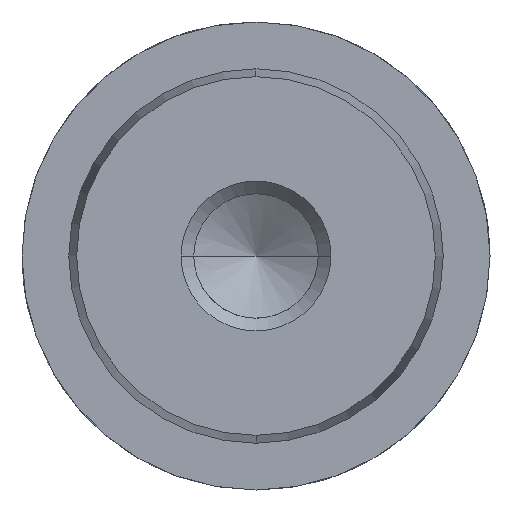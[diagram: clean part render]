
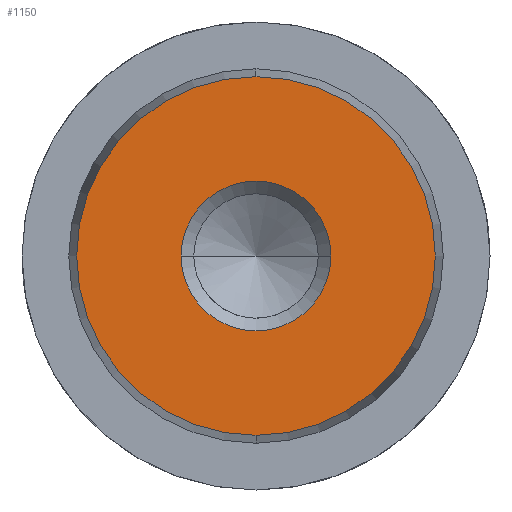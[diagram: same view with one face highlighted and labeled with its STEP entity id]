
A CAD part, left-side view. The second image highlights one B-rep face of the part: STEP entity #1150.
In plain terms, the highlighted planar face has unit normal (-1, 0, 0).
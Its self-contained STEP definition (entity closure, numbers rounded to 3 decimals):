
#1064=CARTESIAN_POINT('Vertex',(0.,0.,-9.578)) ;
#1067=CARTESIAN_POINT('Axis2P3D Location',(0.,0.,0.)) ;
#1071=CARTESIAN_POINT('Vertex',(0.,9.578,0.)) ;
#1074=CARTESIAN_POINT('Axis2P3D Location',(0.,0.,0.)) ;
#1078=CARTESIAN_POINT('Vertex',(0.,0.,9.578)) ;
#1100=CARTESIAN_POINT('Axis2P3D Location',(0.,0.,0.)) ;
#1104=CARTESIAN_POINT('Vertex',(0.,-9.578,0.)) ;
#1107=CARTESIAN_POINT('Axis2P3D Location',(0.,0.,0.)) ;
#1121=CARTESIAN_POINT('Axis2P3D Location',(0.,0.,0.)) ;
#1132=CARTESIAN_POINT('Axis2P3D Location',(0.,0.,0.)) ;
#1136=CARTESIAN_POINT('Vertex',(0.,4.,0.)) ;
#1138=CARTESIAN_POINT('Vertex',(0.,-4.,0.)) ;
#1141=CARTESIAN_POINT('Axis2P3D Location',(0.,0.,0.)) ;
#1068=DIRECTION('Axis2P3D Direction',(1.,0.,-0.)) ;
#1075=DIRECTION('Axis2P3D Direction',(1.,0.,-0.)) ;
#1101=DIRECTION('Axis2P3D Direction',(1.,0.,-0.)) ;
#1108=DIRECTION('Axis2P3D Direction',(1.,0.,-0.)) ;
#1122=DIRECTION('Axis2P3D Direction',(1.,0.,-0.)) ;
#1123=DIRECTION('Axis2P3D XDirection',(-0.,0.,-1.)) ;
#1133=DIRECTION('Axis2P3D Direction',(1.,0.,-0.)) ;
#1142=DIRECTION('Axis2P3D Direction',(1.,0.,-0.)) ;
#1069=AXIS2_PLACEMENT_3D('Circle Axis2P3D',#1067,#1068,$) ;
#1076=AXIS2_PLACEMENT_3D('Circle Axis2P3D',#1074,#1075,$) ;
#1102=AXIS2_PLACEMENT_3D('Circle Axis2P3D',#1100,#1101,$) ;
#1109=AXIS2_PLACEMENT_3D('Circle Axis2P3D',#1107,#1108,$) ;
#1124=AXIS2_PLACEMENT_3D('Plane Axis2P3D',#1121,#1122,#1123) ;
#1134=AXIS2_PLACEMENT_3D('Circle Axis2P3D',#1132,#1133,$) ;
#1143=AXIS2_PLACEMENT_3D('Circle Axis2P3D',#1141,#1142,$) ;
#1127=ORIENTED_EDGE('',*,*,#1073,.F.) ;
#1128=ORIENTED_EDGE('',*,*,#1111,.F.) ;
#1129=ORIENTED_EDGE('',*,*,#1106,.F.) ;
#1130=ORIENTED_EDGE('',*,*,#1080,.F.) ;
#1147=ORIENTED_EDGE('',*,*,#1140,.T.) ;
#1148=ORIENTED_EDGE('',*,*,#1145,.T.) ;
#1149=FACE_BOUND('',#1146,.T.) ;
#1150=ADVANCED_FACE('718-20x140',(#1131,#1149),#1125,.F.) ;
#1070=CIRCLE('generated circle',#1069,9.578) ;
#1077=CIRCLE('generated circle',#1076,9.578) ;
#1103=CIRCLE('generated circle',#1102,9.578) ;
#1110=CIRCLE('generated circle',#1109,9.578) ;
#1135=CIRCLE('generated circle',#1134,4.) ;
#1144=CIRCLE('generated circle',#1143,4.) ;
#1073=EDGE_CURVE('',#1065,#1072,#1070,.T.) ;
#1080=EDGE_CURVE('',#1072,#1079,#1077,.T.) ;
#1106=EDGE_CURVE('',#1079,#1105,#1103,.T.) ;
#1111=EDGE_CURVE('',#1105,#1065,#1110,.T.) ;
#1140=EDGE_CURVE('',#1137,#1139,#1135,.T.) ;
#1145=EDGE_CURVE('',#1139,#1137,#1144,.T.) ;
#1126=EDGE_LOOP('',(#1127,#1128,#1129,#1130)) ;
#1146=EDGE_LOOP('',(#1147,#1148)) ;
#1131=FACE_OUTER_BOUND('',#1126,.T.) ;
#1125=PLANE('Plane',#1124) ;
#1065=VERTEX_POINT('',#1064) ;
#1072=VERTEX_POINT('',#1071) ;
#1079=VERTEX_POINT('',#1078) ;
#1105=VERTEX_POINT('',#1104) ;
#1137=VERTEX_POINT('',#1136) ;
#1139=VERTEX_POINT('',#1138) ;
